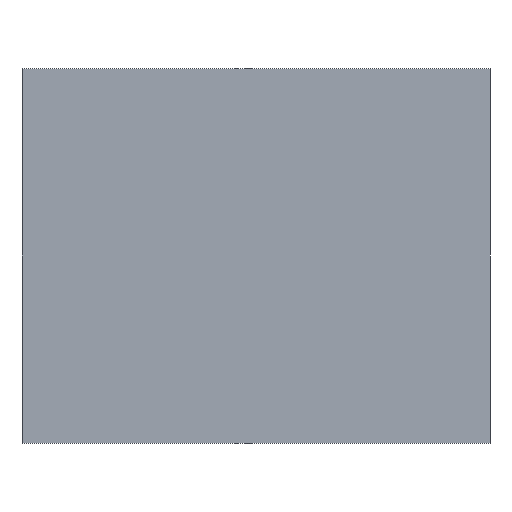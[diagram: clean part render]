
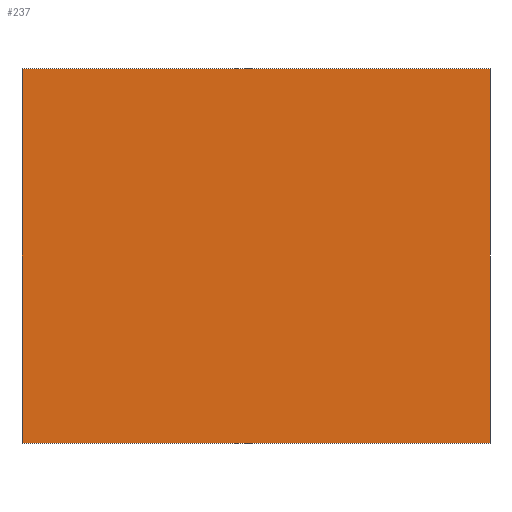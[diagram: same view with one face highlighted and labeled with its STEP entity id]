
A CAD part, front view. The second image highlights one B-rep face of the part: STEP entity #237.
In plain terms, the highlighted planar face has unit normal (0, -1, 0).
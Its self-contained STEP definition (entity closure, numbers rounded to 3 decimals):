
#21 = EDGE_CURVE('',#22,#24,#26,.T.);
#22 = VERTEX_POINT('',#23);
#23 = CARTESIAN_POINT('',(0.,0.,0.));
#24 = VERTEX_POINT('',#25);
#25 = CARTESIAN_POINT('',(0.,0.,80.));
#26 = SURFACE_CURVE('',#27,(#31,#43),.PCURVE_S1.);
#27 = LINE('',#28,#29);
#28 = CARTESIAN_POINT('',(0.,0.,0.));
#29 = VECTOR('',#30,1.);
#30 = DIRECTION('',(0.,0.,1.));
#31 = PCURVE('',#32,#37);
#32 = PLANE('',#33);
#33 = AXIS2_PLACEMENT_3D('',#34,#35,#36);
#34 = CARTESIAN_POINT('',(0.,0.,0.));
#35 = DIRECTION('',(1.,0.,0.));
#36 = DIRECTION('',(0.,0.,1.));
#37 = DEFINITIONAL_REPRESENTATION('',(#38),#42);
#38 = LINE('',#39,#40);
#39 = CARTESIAN_POINT('',(0.,0.));
#40 = VECTOR('',#41,1.);
#41 = DIRECTION('',(1.,0.));
#42 = ( GEOMETRIC_REPRESENTATION_CONTEXT(2) 
PARAMETRIC_REPRESENTATION_CONTEXT() REPRESENTATION_CONTEXT('2D SPACE',''
  ) );
#43 = PCURVE('',#44,#49);
#44 = PLANE('',#45);
#45 = AXIS2_PLACEMENT_3D('',#46,#47,#48);
#46 = CARTESIAN_POINT('',(0.,0.,0.));
#47 = DIRECTION('',(0.,1.,0.));
#48 = DIRECTION('',(0.,0.,1.));
#49 = DEFINITIONAL_REPRESENTATION('',(#50),#54);
#50 = LINE('',#51,#52);
#51 = CARTESIAN_POINT('',(0.,0.));
#52 = VECTOR('',#53,1.);
#53 = DIRECTION('',(1.,0.));
#54 = ( GEOMETRIC_REPRESENTATION_CONTEXT(2) 
PARAMETRIC_REPRESENTATION_CONTEXT() REPRESENTATION_CONTEXT('2D SPACE',''
  ) );
#72 = PLANE('',#73);
#73 = AXIS2_PLACEMENT_3D('',#74,#75,#76);
#74 = CARTESIAN_POINT('',(0.,0.,0.));
#75 = DIRECTION('',(0.,0.,1.));
#76 = DIRECTION('',(1.,0.,0.));
#126 = PLANE('',#127);
#127 = AXIS2_PLACEMENT_3D('',#128,#129,#130);
#128 = CARTESIAN_POINT('',(0.,0.,80.));
#129 = DIRECTION('',(0.,0.,1.));
#130 = DIRECTION('',(1.,0.,0.));
#141 = EDGE_CURVE('',#142,#144,#146,.T.);
#142 = VERTEX_POINT('',#143);
#143 = CARTESIAN_POINT('',(100.,0.,0.));
#144 = VERTEX_POINT('',#145);
#145 = CARTESIAN_POINT('',(100.,0.,80.));
#146 = SURFACE_CURVE('',#147,(#151,#163),.PCURVE_S1.);
#147 = LINE('',#148,#149);
#148 = CARTESIAN_POINT('',(100.,0.,0.));
#149 = VECTOR('',#150,1.);
#150 = DIRECTION('',(0.,0.,1.));
#151 = PCURVE('',#152,#157);
#152 = PLANE('',#153);
#153 = AXIS2_PLACEMENT_3D('',#154,#155,#156);
#154 = CARTESIAN_POINT('',(100.,0.,0.));
#155 = DIRECTION('',(1.,0.,0.));
#156 = DIRECTION('',(0.,0.,1.));
#157 = DEFINITIONAL_REPRESENTATION('',(#158),#162);
#158 = LINE('',#159,#160);
#159 = CARTESIAN_POINT('',(0.,0.));
#160 = VECTOR('',#161,1.);
#161 = DIRECTION('',(1.,0.));
#162 = ( GEOMETRIC_REPRESENTATION_CONTEXT(2) 
PARAMETRIC_REPRESENTATION_CONTEXT() REPRESENTATION_CONTEXT('2D SPACE',''
  ) );
#163 = PCURVE('',#44,#164);
#164 = DEFINITIONAL_REPRESENTATION('',(#165),#169);
#165 = LINE('',#166,#167);
#166 = CARTESIAN_POINT('',(0.,100.));
#167 = VECTOR('',#168,1.);
#168 = DIRECTION('',(1.,0.));
#169 = ( GEOMETRIC_REPRESENTATION_CONTEXT(2) 
PARAMETRIC_REPRESENTATION_CONTEXT() REPRESENTATION_CONTEXT('2D SPACE',''
  ) );
#237 = ADVANCED_FACE('',(#238),#44,.F.);
#238 = FACE_BOUND('',#239,.F.);
#239 = EDGE_LOOP('',(#240,#261,#262,#283));
#240 = ORIENTED_EDGE('',*,*,#241,.F.);
#241 = EDGE_CURVE('',#22,#142,#242,.T.);
#242 = SURFACE_CURVE('',#243,(#247,#254),.PCURVE_S1.);
#243 = LINE('',#244,#245);
#244 = CARTESIAN_POINT('',(0.,0.,0.));
#245 = VECTOR('',#246,1.);
#246 = DIRECTION('',(1.,0.,0.));
#247 = PCURVE('',#44,#248);
#248 = DEFINITIONAL_REPRESENTATION('',(#249),#253);
#249 = LINE('',#250,#251);
#250 = CARTESIAN_POINT('',(0.,0.));
#251 = VECTOR('',#252,1.);
#252 = DIRECTION('',(0.,1.));
#253 = ( GEOMETRIC_REPRESENTATION_CONTEXT(2) 
PARAMETRIC_REPRESENTATION_CONTEXT() REPRESENTATION_CONTEXT('2D SPACE',''
  ) );
#254 = PCURVE('',#72,#255);
#255 = DEFINITIONAL_REPRESENTATION('',(#256),#260);
#256 = LINE('',#257,#258);
#257 = CARTESIAN_POINT('',(0.,0.));
#258 = VECTOR('',#259,1.);
#259 = DIRECTION('',(1.,0.));
#260 = ( GEOMETRIC_REPRESENTATION_CONTEXT(2) 
PARAMETRIC_REPRESENTATION_CONTEXT() REPRESENTATION_CONTEXT('2D SPACE',''
  ) );
#261 = ORIENTED_EDGE('',*,*,#21,.T.);
#262 = ORIENTED_EDGE('',*,*,#263,.T.);
#263 = EDGE_CURVE('',#24,#144,#264,.T.);
#264 = SURFACE_CURVE('',#265,(#269,#276),.PCURVE_S1.);
#265 = LINE('',#266,#267);
#266 = CARTESIAN_POINT('',(0.,0.,80.));
#267 = VECTOR('',#268,1.);
#268 = DIRECTION('',(1.,0.,0.));
#269 = PCURVE('',#44,#270);
#270 = DEFINITIONAL_REPRESENTATION('',(#271),#275);
#271 = LINE('',#272,#273);
#272 = CARTESIAN_POINT('',(80.,0.));
#273 = VECTOR('',#274,1.);
#274 = DIRECTION('',(0.,1.));
#275 = ( GEOMETRIC_REPRESENTATION_CONTEXT(2) 
PARAMETRIC_REPRESENTATION_CONTEXT() REPRESENTATION_CONTEXT('2D SPACE',''
  ) );
#276 = PCURVE('',#126,#277);
#277 = DEFINITIONAL_REPRESENTATION('',(#278),#282);
#278 = LINE('',#279,#280);
#279 = CARTESIAN_POINT('',(0.,0.));
#280 = VECTOR('',#281,1.);
#281 = DIRECTION('',(1.,0.));
#282 = ( GEOMETRIC_REPRESENTATION_CONTEXT(2) 
PARAMETRIC_REPRESENTATION_CONTEXT() REPRESENTATION_CONTEXT('2D SPACE',''
  ) );
#283 = ORIENTED_EDGE('',*,*,#141,.F.);
